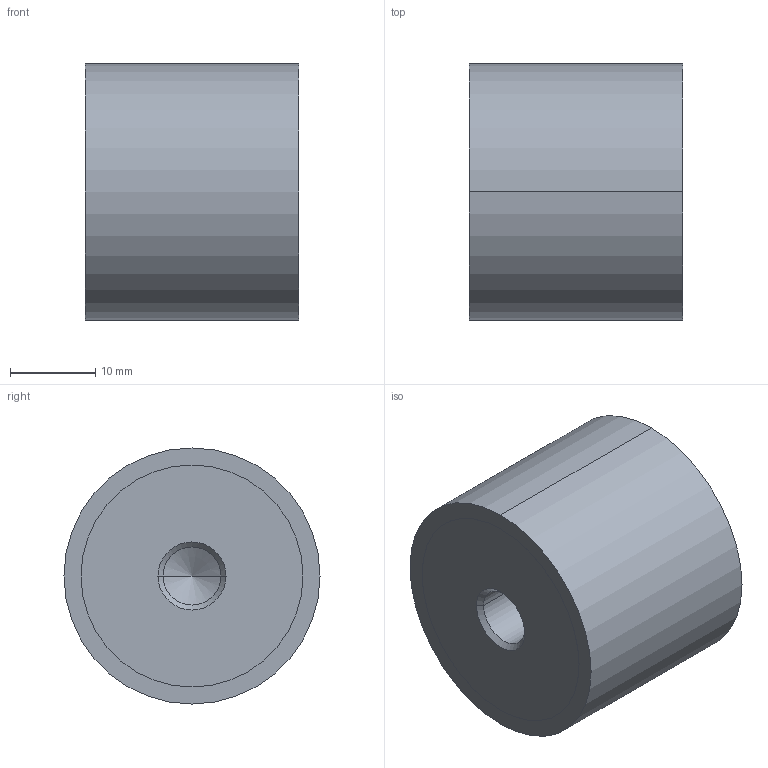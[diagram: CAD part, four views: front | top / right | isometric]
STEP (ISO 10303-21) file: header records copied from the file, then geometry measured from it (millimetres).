
FILE_DESCRIPTION (( 'STEP AP214' ), '1' );
FILE_NAME ('351-30-25-M8-EE-40.step', '2025-07-23T09:55:51', ( '' ), ( '' ), 'SwSTEP 2.0', 'SolidWorks 2022', '' );
FILE_SCHEMA (( 'AUTOMOTIVE_DESIGN' ));
Length unit declared in the file: millimetre
Products named in the file (1): 351-30-25-M8-EE-40
Bounding box: 25 x 30 x 30 mm (x, y, z)
Volume: 16954.5 mm3; surface area: 4152.2 mm2
Topology: 1 solids, 1 shells, 28 faces, 58 edges, 34 vertices
Faces by surface type: cylinder 14, cone 8, plane 6
Entity records: 844 total; most frequent: DIRECTION 144, CARTESIAN_POINT 117, ORIENTED_EDGE 108, AXIS2_PLACEMENT_3D 61, EDGE_CURVE 54, VERTEX_POINT 34, EDGE_LOOP 34, CIRCLE 32
